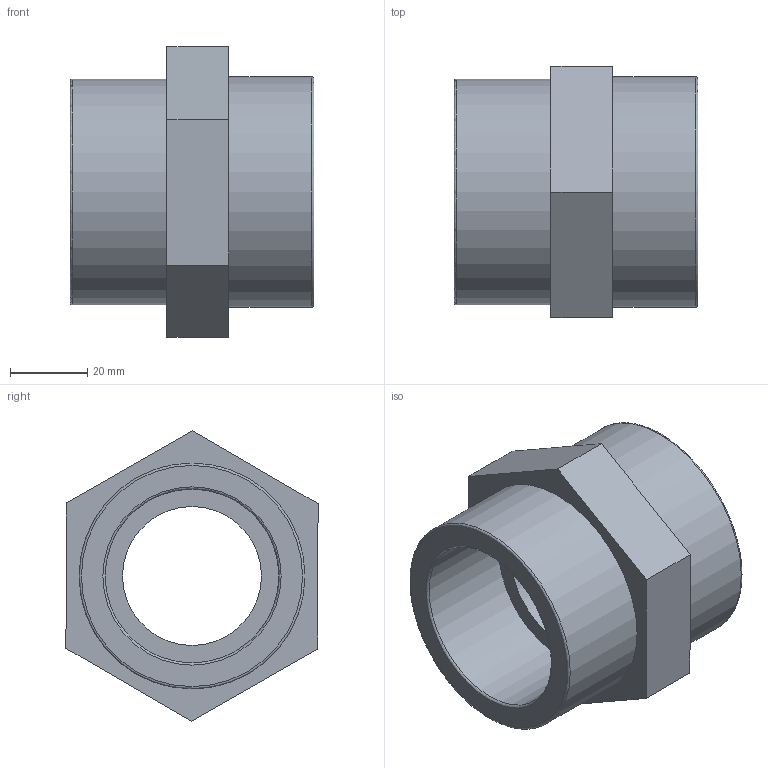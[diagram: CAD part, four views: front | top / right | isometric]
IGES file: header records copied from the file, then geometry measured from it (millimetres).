
Global section: file name: 050201020015.ipt; native system: Autodesk Inventor 2015; preprocessor: unknown; author: KIM; date: 20171207.164329; units: millimetre
Bounding box: 63 x 65.11 x 75.06 mm (x, y, z)
Volume: 91102.6 mm3; surface area: 26078.4 mm2
Topology: 1 solids, 1 shells, 21 faces, 55 edges, 40 vertices
Faces by surface type: plane 12, revolution 7, cylinder 2
Full cylindrical faces by diameter (mm): 58.298 x1, 59.614 x1
